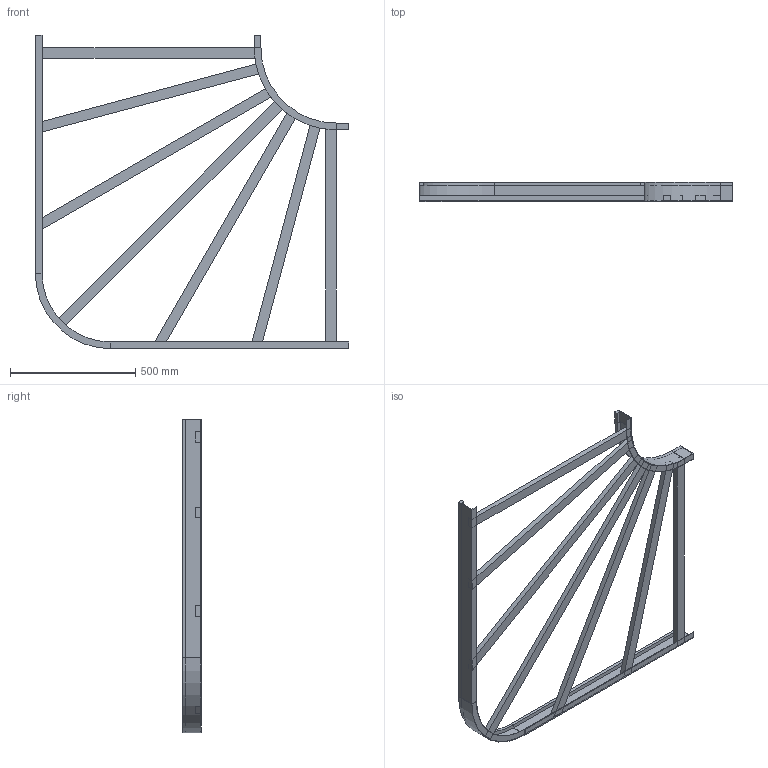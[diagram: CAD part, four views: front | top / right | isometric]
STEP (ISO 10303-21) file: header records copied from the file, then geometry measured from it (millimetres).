
FILE_DESCRIPTION (( 'STEP AP214' ), '1' );
FILE_NAME ('B2_10B3C900.step', '2025-02-21T15:27:17', ( '' ), ( '' ), 'SwSTEP 2.0', 'SolidWorks 2023', '' );
FILE_SCHEMA (( 'AUTOMOTIVE_DESIGN' ));
Length unit declared in the file: millimetre
Products named in the file (7): B2_LONGH.ESTERNO 90°_H75_R300+900; B2_LONGH.INTERNO 90°_H75_R300; TRAVERSINO_1267; TRAVERSINO_956_SCANTONATO; TRAVERSINO_900; B2_10B3C900; TRAVERSINO_1050_SCANTONATO
Assembly tree (9 placements, depth 2):
  B2_10B3C900
    B2_LONGH.INTERNO 90°_H75_R300
    B2_LONGH.ESTERNO 90°_H75_R300+900
    TRAVERSINO_900  x2
    TRAVERSINO_956_SCANTONATO  x2
    TRAVERSINO_1050_SCANTONATO  x2
    TRAVERSINO_1267
Bounding box: 1250 x 75 x 1250 mm (x, y, z)
Volume: 6918221.3 mm3; surface area: 1568762 mm2
Topology: 9 solids, 9 shells, 94 faces, 196 edges, 120 vertices
Faces by surface type: plane 86, cylinder 8
Entity records: 2208 total; most frequent: DIRECTION 352, CARTESIAN_POINT 344, ORIENTED_EDGE 320, EDGE_CURVE 160, VECTOR 144, LINE 144, AXIS2_PLACEMENT_3D 104, VERTEX_POINT 96
